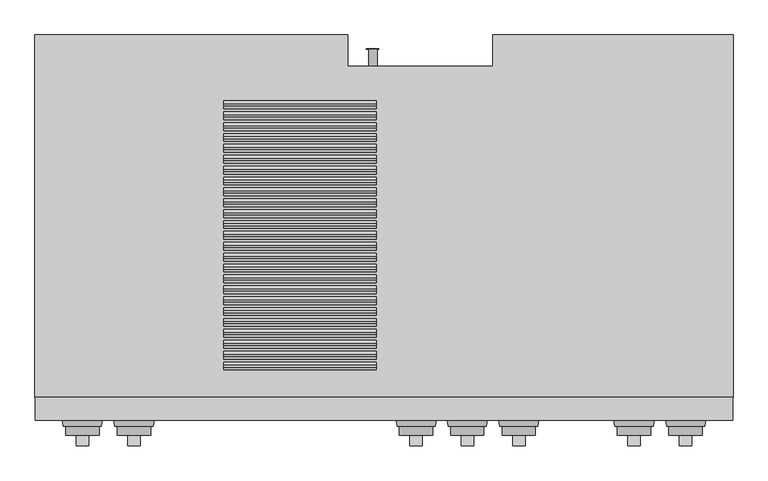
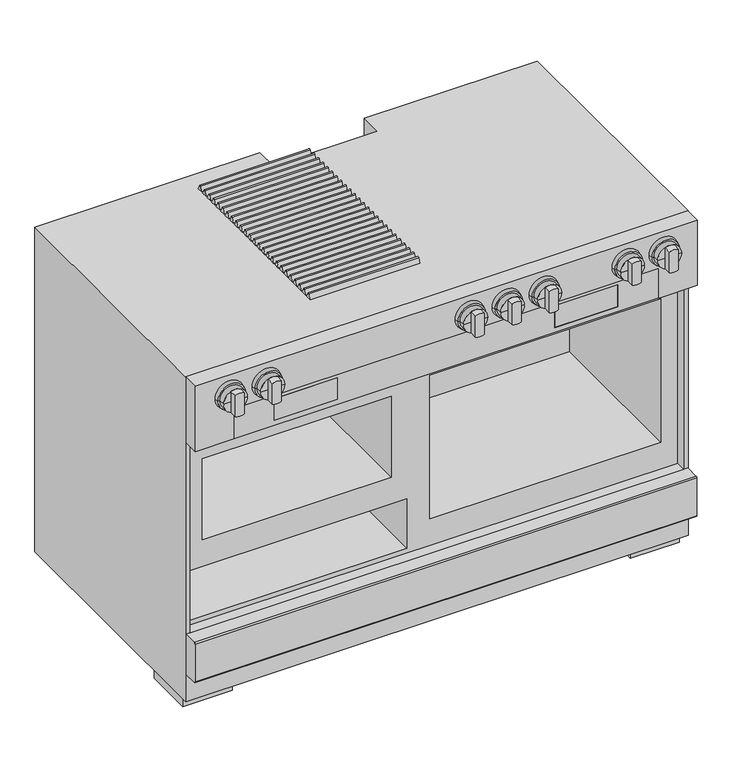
"""IFC4 building model written with IfcOpenShell, lengths in millimetres: proxy geometry, 11791690_USA_HR1955-3G_EDST-CLST : 25195581_USA_11791690_HR1955-3G_EDST-CLST."""

from ifc_helpers import new_model, si_unit, point, frame, frame_2d, origin, origin_with_axes, place, context, project, spatial, polyline, circle_curve, trimmed, segment, composite_curve, outline, extrude, faceted_brep, source, transform, mapped, element, save
from ifc_brep_helpers import plane_surface, cylinder_surface, revolved_surface, advanced_brep


def specialty_equipment_22e6063f(model_context):
    return source(origin(), model_context, "Body", "SolidModel", [
        extrude(outline(composite_curve([segment(polyline([(-584.850382, 916.0), (-579.8405353, 927.7825791)]), True, "CONTINUOUS"), segment(trimmed(circle_curve(frame_2d((-578.0, 927.0)), 2.0), [point((-579.8405353, 927.7825791))], [point((-576.1594647, 927.7825791))], False, "CARTESIAN"), True, "CONTINUOUS"), segment(polyline([(-576.1594647, 927.7825791), (-571.149618, 916.0), (-584.850382, 916.0)]), True, "CONTINUOUS")], self_intersect=False)), frame((-279.5, 0.0, 0.0), z_axis=(1.0, 0.0, 0.0), x_axis=(0.0, 1.0, 0.0)), (0.0, 0.0, 1.0), 266.0),
        extrude(outline(composite_curve([segment(polyline([(-565.850382, 916.0), (-560.8405353, 927.7825791)]), True, "CONTINUOUS"), segment(trimmed(circle_curve(frame_2d((-559.0, 927.0)), 2.0), [point((-560.8405353, 927.7825791))], [point((-557.1594647, 927.7825791))], False, "CARTESIAN"), True, "CONTINUOUS"), segment(polyline([(-557.1594647, 927.7825791), (-552.149618, 916.0), (-565.850382, 916.0)]), True, "CONTINUOUS")], self_intersect=False)), frame((-279.5, 0.0, 0.0), z_axis=(1.0, 0.0, 0.0), x_axis=(0.0, 1.0, 0.0)), (0.0, 0.0, 1.0), 266.0),
        extrude(outline(composite_curve([segment(polyline([(-546.850382, 916.0), (-541.8405353, 927.7825791)]), True, "CONTINUOUS"), segment(trimmed(circle_curve(frame_2d((-540.0, 927.0)), 2.0), [point((-541.8405353, 927.7825791))], [point((-538.1594647, 927.7825791))], False, "CARTESIAN"), True, "CONTINUOUS"), segment(polyline([(-538.1594647, 927.7825791), (-533.149618, 916.0), (-546.850382, 916.0)]), True, "CONTINUOUS")], self_intersect=False)), frame((-279.5, 0.0, 0.0), z_axis=(1.0, 0.0, 0.0), x_axis=(0.0, 1.0, 0.0)), (0.0, 0.0, 1.0), 266.0),
        extrude(outline(composite_curve([segment(polyline([(-527.850382, 916.0), (-522.8405353, 927.7825791)]), True, "CONTINUOUS"), segment(trimmed(circle_curve(frame_2d((-521.0, 927.0)), 2.0), [point((-522.8405353, 927.7825791))], [point((-519.1594647, 927.7825791))], False, "CARTESIAN"), True, "CONTINUOUS"), segment(polyline([(-519.1594647, 927.7825791), (-514.149618, 916.0), (-527.850382, 916.0)]), True, "CONTINUOUS")], self_intersect=False)), frame((-279.5, 0.0, 0.0), z_axis=(1.0, 0.0, 0.0), x_axis=(0.0, 1.0, 0.0)), (0.0, 0.0, 1.0), 266.0),
        extrude(outline(composite_curve([segment(polyline([(-508.850382, 916.0), (-503.8405353, 927.7825791)]), True, "CONTINUOUS"), segment(trimmed(circle_curve(frame_2d((-502.0, 927.0)), 2.0), [point((-503.8405353, 927.7825791))], [point((-500.1594647, 927.7825791))], False, "CARTESIAN"), True, "CONTINUOUS"), segment(polyline([(-500.1594647, 927.7825791), (-495.149618, 916.0), (-508.850382, 916.0)]), True, "CONTINUOUS")], self_intersect=False)), frame((-279.5, 0.0, 0.0), z_axis=(1.0, 0.0, 0.0), x_axis=(0.0, 1.0, 0.0)), (0.0, 0.0, 1.0), 266.0),
        extrude(outline(composite_curve([segment(polyline([(-489.850382, 916.0), (-484.8405353, 927.7825791)]), True, "CONTINUOUS"), segment(trimmed(circle_curve(frame_2d((-483.0, 927.0)), 2.0), [point((-484.8405353, 927.7825791))], [point((-481.1594647, 927.7825791))], False, "CARTESIAN"), True, "CONTINUOUS"), segment(polyline([(-481.1594647, 927.7825791), (-476.149618, 916.0), (-489.850382, 916.0)]), True, "CONTINUOUS")], self_intersect=False)), frame((-279.5, 0.0, 0.0), z_axis=(1.0, 0.0, 0.0), x_axis=(0.0, 1.0, 0.0)), (0.0, 0.0, 1.0), 266.0),
        extrude(outline(composite_curve([segment(polyline([(-470.850382, 916.0), (-465.8405353, 927.7825791)]), True, "CONTINUOUS"), segment(trimmed(circle_curve(frame_2d((-464.0, 927.0)), 2.0), [point((-465.8405353, 927.7825791))], [point((-462.1594647, 927.7825791))], False, "CARTESIAN"), True, "CONTINUOUS"), segment(polyline([(-462.1594647, 927.7825791), (-457.149618, 916.0), (-470.850382, 916.0)]), True, "CONTINUOUS")], self_intersect=False)), frame((-279.5, 0.0, 0.0), z_axis=(1.0, 0.0, 0.0), x_axis=(0.0, 1.0, 0.0)), (0.0, 0.0, 1.0), 266.0),
        extrude(outline(composite_curve([segment(polyline([(-451.850382, 916.0), (-446.8405353, 927.7825791)]), True, "CONTINUOUS"), segment(trimmed(circle_curve(frame_2d((-445.0, 927.0)), 2.0), [point((-446.8405353, 927.7825791))], [point((-443.1594647, 927.7825791))], False, "CARTESIAN"), True, "CONTINUOUS"), segment(polyline([(-443.1594647, 927.7825791), (-438.149618, 916.0), (-451.850382, 916.0)]), True, "CONTINUOUS")], self_intersect=False)), frame((-279.5, 0.0, 0.0), z_axis=(1.0, 0.0, 0.0), x_axis=(0.0, 1.0, 0.0)), (0.0, 0.0, 1.0), 266.0),
        extrude(outline(composite_curve([segment(polyline([(-432.850382, 916.0), (-427.8405353, 927.7825791)]), True, "CONTINUOUS"), segment(trimmed(circle_curve(frame_2d((-426.0, 927.0)), 2.0), [point((-427.8405353, 927.7825791))], [point((-424.1594647, 927.7825791))], False, "CARTESIAN"), True, "CONTINUOUS"), segment(polyline([(-424.1594647, 927.7825791), (-419.149618, 916.0), (-432.850382, 916.0)]), True, "CONTINUOUS")], self_intersect=False)), frame((-279.5, 0.0, 0.0), z_axis=(1.0, 0.0, 0.0), x_axis=(0.0, 1.0, 0.0)), (0.0, 0.0, 1.0), 266.0),
        extrude(outline(composite_curve([segment(polyline([(-413.850382, 916.0), (-408.8405353, 927.7825791)]), True, "CONTINUOUS"), segment(trimmed(circle_curve(frame_2d((-407.0, 927.0)), 2.0), [point((-408.8405353, 927.7825791))], [point((-405.1594647, 927.7825791))], False, "CARTESIAN"), True, "CONTINUOUS"), segment(polyline([(-405.1594647, 927.7825791), (-400.149618, 916.0), (-413.850382, 916.0)]), True, "CONTINUOUS")], self_intersect=False)), frame((-279.5, 0.0, 0.0), z_axis=(1.0, 0.0, 0.0), x_axis=(0.0, 1.0, 0.0)), (0.0, 0.0, 1.0), 266.0),
        extrude(outline(composite_curve([segment(polyline([(-394.850382, 916.0), (-389.8405353, 927.7825791)]), True, "CONTINUOUS"), segment(trimmed(circle_curve(frame_2d((-388.0, 927.0)), 2.0), [point((-389.8405353, 927.7825791))], [point((-386.1594647, 927.7825791))], False, "CARTESIAN"), True, "CONTINUOUS"), segment(polyline([(-386.1594647, 927.7825791), (-381.149618, 916.0), (-394.850382, 916.0)]), True, "CONTINUOUS")], self_intersect=False)), frame((-279.5, 0.0, 0.0), z_axis=(1.0, 0.0, 0.0), x_axis=(0.0, 1.0, 0.0)), (0.0, 0.0, 1.0), 266.0),
        extrude(outline(composite_curve([segment(polyline([(-375.850382, 916.0), (-370.8405353, 927.7825791)]), True, "CONTINUOUS"), segment(trimmed(circle_curve(frame_2d((-369.0, 927.0)), 2.0), [point((-370.8405353, 927.7825791))], [point((-367.1594647, 927.7825791))], False, "CARTESIAN"), True, "CONTINUOUS"), segment(polyline([(-367.1594647, 927.7825791), (-362.149618, 916.0), (-375.850382, 916.0)]), True, "CONTINUOUS")], self_intersect=False)), frame((-279.5, 0.0, 0.0), z_axis=(1.0, 0.0, 0.0), x_axis=(0.0, 1.0, 0.0)), (0.0, 0.0, 1.0), 266.0),
        extrude(outline(composite_curve([segment(polyline([(-356.850382, 916.0), (-351.8405353, 927.7825791)]), True, "CONTINUOUS"), segment(trimmed(circle_curve(frame_2d((-350.0, 927.0)), 2.0), [point((-351.8405353, 927.7825791))], [point((-348.1594647, 927.7825791))], False, "CARTESIAN"), True, "CONTINUOUS"), segment(polyline([(-348.1594647, 927.7825791), (-343.149618, 916.0), (-356.850382, 916.0)]), True, "CONTINUOUS")], self_intersect=False)), frame((-279.5, 0.0, 0.0), z_axis=(1.0, 0.0, 0.0), x_axis=(0.0, 1.0, 0.0)), (0.0, 0.0, 1.0), 266.0),
        extrude(outline(composite_curve([segment(polyline([(-337.850382, 916.0), (-332.8405353, 927.7825791)]), True, "CONTINUOUS"), segment(trimmed(circle_curve(frame_2d((-331.0, 927.0)), 2.0), [point((-332.8405353, 927.7825791))], [point((-329.1594647, 927.7825791))], False, "CARTESIAN"), True, "CONTINUOUS"), segment(polyline([(-329.1594647, 927.7825791), (-324.149618, 916.0), (-337.850382, 916.0)]), True, "CONTINUOUS")], self_intersect=False)), frame((-279.5, 0.0, 0.0), z_axis=(1.0, 0.0, 0.0), x_axis=(0.0, 1.0, 0.0)), (0.0, 0.0, 1.0), 266.0),
        extrude(outline(composite_curve([segment(polyline([(-318.850382, 916.0), (-313.8405353, 927.7825791)]), True, "CONTINUOUS"), segment(trimmed(circle_curve(frame_2d((-312.0, 927.0)), 2.0), [point((-313.8405353, 927.7825791))], [point((-310.1594647, 927.7825791))], False, "CARTESIAN"), True, "CONTINUOUS"), segment(polyline([(-310.1594647, 927.7825791), (-305.149618, 916.0), (-318.850382, 916.0)]), True, "CONTINUOUS")], self_intersect=False)), frame((-279.5, 0.0, 0.0), z_axis=(1.0, 0.0, 0.0), x_axis=(0.0, 1.0, 0.0)), (0.0, 0.0, 1.0), 266.0),
        extrude(outline(composite_curve([segment(polyline([(-299.850382, 916.0), (-294.8405353, 927.7825791)]), True, "CONTINUOUS"), segment(trimmed(circle_curve(frame_2d((-293.0, 927.0)), 2.0), [point((-294.8405353, 927.7825791))], [point((-291.1594647, 927.7825791))], False, "CARTESIAN"), True, "CONTINUOUS"), segment(polyline([(-291.1594647, 927.7825791), (-286.149618, 916.0), (-299.850382, 916.0)]), True, "CONTINUOUS")], self_intersect=False)), frame((-279.5, 0.0, 0.0), z_axis=(1.0, 0.0, 0.0), x_axis=(0.0, 1.0, 0.0)), (0.0, 0.0, 1.0), 266.0),
        extrude(outline(composite_curve([segment(polyline([(-280.850382, 916.0), (-275.8405353, 927.7825791)]), True, "CONTINUOUS"), segment(trimmed(circle_curve(frame_2d((-274.0, 927.0)), 2.0), [point((-275.8405353, 927.7825791))], [point((-272.1594647, 927.7825791))], False, "CARTESIAN"), True, "CONTINUOUS"), segment(polyline([(-272.1594647, 927.7825791), (-267.149618, 916.0), (-280.850382, 916.0)]), True, "CONTINUOUS")], self_intersect=False)), frame((-279.5, 0.0, 0.0), z_axis=(1.0, 0.0, 0.0), x_axis=(0.0, 1.0, 0.0)), (0.0, 0.0, 1.0), 266.0),
        extrude(outline(composite_curve([segment(polyline([(-261.850382, 916.0), (-256.8405353, 927.7825791)]), True, "CONTINUOUS"), segment(trimmed(circle_curve(frame_2d((-255.0, 927.0)), 2.0), [point((-256.8405353, 927.7825791))], [point((-253.1594647, 927.7825791))], False, "CARTESIAN"), True, "CONTINUOUS"), segment(polyline([(-253.1594647, 927.7825791), (-248.149618, 916.0), (-261.850382, 916.0)]), True, "CONTINUOUS")], self_intersect=False)), frame((-279.5, 0.0, 0.0), z_axis=(1.0, 0.0, 0.0), x_axis=(0.0, 1.0, 0.0)), (0.0, 0.0, 1.0), 266.0),
        extrude(outline(composite_curve([segment(polyline([(-242.850382, 916.0), (-237.8405353, 927.7825791)]), True, "CONTINUOUS"), segment(trimmed(circle_curve(frame_2d((-236.0, 927.0)), 2.0), [point((-237.8405353, 927.7825791))], [point((-234.1594647, 927.7825791))], False, "CARTESIAN"), True, "CONTINUOUS"), segment(polyline([(-234.1594647, 927.7825791), (-229.149618, 916.0), (-242.850382, 916.0)]), True, "CONTINUOUS")], self_intersect=False)), frame((-279.5, 0.0, 0.0), z_axis=(1.0, 0.0, 0.0), x_axis=(0.0, 1.0, 0.0)), (0.0, 0.0, 1.0), 266.0),
        extrude(outline(composite_curve([segment(polyline([(-223.850382, 916.0), (-218.8405353, 927.7825791)]), True, "CONTINUOUS"), segment(trimmed(circle_curve(frame_2d((-217.0, 927.0)), 2.0), [point((-218.8405353, 927.7825791))], [point((-215.1594647, 927.7825791))], False, "CARTESIAN"), True, "CONTINUOUS"), segment(polyline([(-215.1594647, 927.7825791), (-210.149618, 916.0), (-223.850382, 916.0)]), True, "CONTINUOUS")], self_intersect=False)), frame((-279.5, 0.0, 0.0), z_axis=(1.0, 0.0, 0.0), x_axis=(0.0, 1.0, 0.0)), (0.0, 0.0, 1.0), 266.0),
        extrude(outline(composite_curve([segment(polyline([(-204.850382, 916.0), (-199.8405353, 927.7825791)]), True, "CONTINUOUS"), segment(trimmed(circle_curve(frame_2d((-198.0, 927.0)), 2.0), [point((-199.8405353, 927.7825791))], [point((-196.1594647, 927.7825791))], False, "CARTESIAN"), True, "CONTINUOUS"), segment(polyline([(-196.1594647, 927.7825791), (-191.149618, 916.0), (-204.850382, 916.0)]), True, "CONTINUOUS")], self_intersect=False)), frame((-279.5, 0.0, 0.0), z_axis=(1.0, 0.0, 0.0), x_axis=(0.0, 1.0, 0.0)), (0.0, 0.0, 1.0), 266.0),
        extrude(outline(composite_curve([segment(polyline([(-186.0094205, 916.0), (-180.9995737, 927.7825791)]), True, "CONTINUOUS"), segment(trimmed(circle_curve(frame_2d((-179.1590385, 927.0)), 2.0), [point((-180.9995737, 927.7825791))], [point((-177.3185032, 927.7825791))], False, "CARTESIAN"), True, "CONTINUOUS"), segment(polyline([(-177.3185032, 927.7825791), (-172.3086564, 916.0), (-186.0094205, 916.0)]), True, "CONTINUOUS")], self_intersect=False)), frame((-279.5, 0.0, 0.0), z_axis=(1.0, 0.0, 0.0), x_axis=(0.0, 1.0, 0.0)), (0.0, 0.0, 1.0), 266.0),
        extrude(outline(composite_curve([segment(polyline([(-167.0094205, 916.0), (-161.9995737, 927.7825791)]), True, "CONTINUOUS"), segment(trimmed(circle_curve(frame_2d((-160.1590385, 927.0)), 2.0), [point((-161.9995737, 927.7825791))], [point((-158.3185032, 927.7825791))], False, "CARTESIAN"), True, "CONTINUOUS"), segment(polyline([(-158.3185032, 927.7825791), (-153.3086564, 916.0), (-167.0094205, 916.0)]), True, "CONTINUOUS")], self_intersect=False)), frame((-279.5, 0.0, 0.0), z_axis=(1.0, 0.0, 0.0), x_axis=(0.0, 1.0, 0.0)), (0.0, 0.0, 1.0), 266.0),
        extrude(outline(composite_curve([segment(polyline([(-147.9510319, 916.0), (-142.9411852, 927.7825791)]), True, "CONTINUOUS"), segment(trimmed(circle_curve(frame_2d((-141.1006499, 927.0)), 2.0), [point((-142.9411852, 927.7825791))], [point((-139.2601147, 927.7825791))], False, "CARTESIAN"), True, "CONTINUOUS"), segment(polyline([(-139.2601147, 927.7825791), (-134.2502679, 916.0), (-147.9510319, 916.0)]), True, "CONTINUOUS")], self_intersect=False)), frame((-279.5, 0.0, 0.0), z_axis=(1.0, 0.0, 0.0), x_axis=(0.0, 1.0, 0.0)), (0.0, 0.0, 1.0), 266.0),
        extrude(outline(composite_curve([segment(polyline([(-128.9510319, 916.0), (-123.9411852, 927.7825791)]), True, "CONTINUOUS"), segment(trimmed(circle_curve(frame_2d((-122.1006499, 927.0)), 2.0), [point((-123.9411852, 927.7825791))], [point((-120.2601147, 927.7825791))], False, "CARTESIAN"), True, "CONTINUOUS"), segment(polyline([(-120.2601147, 927.7825791), (-115.2502679, 916.0), (-128.9510319, 916.0)]), True, "CONTINUOUS")], self_intersect=False)), frame((-279.5, 0.0, 0.0), z_axis=(1.0, 0.0, 0.0), x_axis=(0.0, 1.0, 0.0)), (0.0, 0.0, 1.0), 266.0),
        advanced_brep(
        [(526.5, -683.0, 813.0), (555.5, -683.0, 813.0), (497.5, -683.0, 813.0), (497.5, -699.0, 813.0), (555.5, -699.0, 813.0), (526.5, -699.0, 813.0)],
        [
            (0, 1),
            (1, 2, circle_curve(frame((526.5, -683.0, 813.0), z_axis=(0.0, 1.0, 0.0), x_axis=(1.0, 0.0, 0.0)), 29.0)),
            (2, 0),
            (2, 1, circle_curve(frame((526.5, -683.0, 813.0), z_axis=(0.0, 1.0, 0.0), x_axis=(1.0, 0.0, 0.0)), 29.0)),
            (3, 4, circle_curve(frame((526.5, -699.0, 813.0), z_axis=(0.0, -1.0, 0.0), x_axis=(1.0, 0.0, 0.0)), 29.0)),
            (4, 5),
            (5, 3),
            (4, 3, circle_curve(frame((526.5, -699.0, 813.0), z_axis=(0.0, -1.0, 0.0), x_axis=(1.0, 0.0, 0.0)), 29.0)),
            (1, 4),
            (3, 2),
        ],
        [
            plane_surface(frame((526.5, -683.0, 813.0), z_axis=(0.0, 1.0, 0.0), x_axis=(1.0, 0.0, 0.0))),
            plane_surface(frame((526.5, -699.0, 813.0), z_axis=(0.0, -1.0, 0.0), x_axis=(1.0, 0.0, 0.0))),
            cylinder_surface(frame((526.5, 751.3738435, 813.0), z_axis=(0.0, 1.0, 0.0), x_axis=(1.0, 0.0, 0.0)), 29.0),
        ],
        [
            (0, [[1, 2, 3]]),
            (0, [[-3, 4, -1]]),
            (1, [[5, 6, 7]]),
            (1, [[8, -7, -6]]),
            (2, [[-2, 9, -5, 10]]),
            (2, [[-4, -10, -8, -9]]),
        ],
    ),
        extrude(outline(composite_curve([segment(polyline([(786.1671843, 537.5), (839.8328157, 537.5)]), True, "CONTINUOUS"), segment(trimmed(circle_curve(frame_2d((813.0, 526.5)), 29.0), [point((839.8328157, 537.5))], [point((839.8328157, 515.5))], False, "CARTESIAN"), True, "CONTINUOUS"), segment(polyline([(839.8328157, 515.5), (786.1671843, 515.5)]), True, "CONTINUOUS"), segment(trimmed(circle_curve(frame_2d((813.0, 526.5)), 29.0), [point((786.1671843, 515.5))], [point((786.1671843, 537.5))], False, "CARTESIAN"), True, "CONTINUOUS")], self_intersect=False)), frame((0.0, -717.0, 0.0), z_axis=(0.0, 1.0, 0.0), x_axis=(0.0, 0.0, 1.0)), (0.0, 0.0, 1.0), 18.0),
        advanced_brep(
        [(436.5, -683.0, 813.0), (465.5, -683.0, 813.0), (407.5, -683.0, 813.0), (407.5, -699.0, 813.0), (465.5, -699.0, 813.0), (436.5, -699.0, 813.0)],
        [
            (0, 1),
            (1, 2, circle_curve(frame((436.5, -683.0, 813.0), z_axis=(0.0, 1.0, 0.0), x_axis=(1.0, 0.0, 0.0)), 29.0)),
            (2, 0),
            (2, 1, circle_curve(frame((436.5, -683.0, 813.0), z_axis=(0.0, 1.0, 0.0), x_axis=(1.0, 0.0, 0.0)), 29.0)),
            (3, 4, circle_curve(frame((436.5, -699.0, 813.0), z_axis=(0.0, -1.0, 0.0), x_axis=(1.0, 0.0, 0.0)), 29.0)),
            (4, 5),
            (5, 3),
            (4, 3, circle_curve(frame((436.5, -699.0, 813.0), z_axis=(0.0, -1.0, 0.0), x_axis=(1.0, 0.0, 0.0)), 29.0)),
            (1, 4),
            (3, 2),
        ],
        [
            plane_surface(frame((436.5, -683.0, 813.0), z_axis=(0.0, 1.0, 0.0), x_axis=(1.0, 0.0, 0.0))),
            plane_surface(frame((436.5, -699.0, 813.0), z_axis=(0.0, -1.0, 0.0), x_axis=(1.0, 0.0, 0.0))),
            cylinder_surface(frame((436.5, 751.3738435, 813.0), z_axis=(0.0, 1.0, 0.0), x_axis=(1.0, 0.0, 0.0)), 29.0),
        ],
        [
            (0, [[1, 2, 3]]),
            (0, [[-3, 4, -1]]),
            (1, [[5, 6, 7]]),
            (1, [[8, -7, -6]]),
            (2, [[-2, 9, -5, 10]]),
            (2, [[-4, -10, -8, -9]]),
        ],
    ),
        advanced_brep(
        [(235.5, -683.0, 813.0), (264.5, -683.0, 813.0), (206.5, -683.0, 813.0), (206.5, -699.0, 813.0), (264.5, -699.0, 813.0), (235.5, -699.0, 813.0)],
        [
            (0, 1),
            (1, 2, circle_curve(frame((235.5, -683.0, 813.0), z_axis=(0.0, 1.0, 0.0), x_axis=(1.0, 0.0, 0.0)), 29.0)),
            (2, 0),
            (2, 1, circle_curve(frame((235.5, -683.0, 813.0), z_axis=(0.0, 1.0, 0.0), x_axis=(1.0, 0.0, 0.0)), 29.0)),
            (3, 4, circle_curve(frame((235.5, -699.0, 813.0), z_axis=(0.0, -1.0, 0.0), x_axis=(1.0, 0.0, 0.0)), 29.0)),
            (4, 5),
            (5, 3),
            (4, 3, circle_curve(frame((235.5, -699.0, 813.0), z_axis=(0.0, -1.0, 0.0), x_axis=(1.0, 0.0, 0.0)), 29.0)),
            (1, 4),
            (3, 2),
        ],
        [
            plane_surface(frame((235.5, -683.0, 813.0), z_axis=(0.0, 1.0, 0.0), x_axis=(1.0, 0.0, 0.0))),
            plane_surface(frame((235.5, -699.0, 813.0), z_axis=(0.0, -1.0, 0.0), x_axis=(1.0, 0.0, 0.0))),
            cylinder_surface(frame((235.5, 751.3738435, 813.0), z_axis=(0.0, 1.0, 0.0), x_axis=(1.0, 0.0, 0.0)), 29.0),
        ],
        [
            (0, [[1, 2, 3]]),
            (0, [[-3, 4, -1]]),
            (1, [[5, 6, 7]]),
            (1, [[8, -7, -6]]),
            (2, [[-2, 9, -5, 10]]),
            (2, [[-4, -10, -8, -9]]),
        ],
    ),
        advanced_brep(
        [(-436.5, -683.0, 813.0), (-407.5, -683.0, 813.0), (-465.5, -683.0, 813.0), (-465.5, -699.0, 813.0), (-407.5, -699.0, 813.0), (-436.5, -699.0, 813.0)],
        [
            (0, 1),
            (1, 2, circle_curve(frame((-436.5, -683.0, 813.0), z_axis=(0.0, 1.0, 0.0), x_axis=(1.0, 0.0, 0.0)), 29.0)),
            (2, 0),
            (2, 1, circle_curve(frame((-436.5, -683.0, 813.0), z_axis=(0.0, 1.0, 0.0), x_axis=(1.0, 0.0, 0.0)), 29.0)),
            (3, 4, circle_curve(frame((-436.5, -699.0, 813.0), z_axis=(0.0, -1.0, 0.0), x_axis=(1.0, 0.0, 0.0)), 29.0)),
            (4, 5),
            (5, 3),
            (4, 3, circle_curve(frame((-436.5, -699.0, 813.0), z_axis=(0.0, -1.0, 0.0), x_axis=(1.0, 0.0, 0.0)), 29.0)),
            (1, 4),
            (3, 2),
        ],
        [
            plane_surface(frame((-436.5, -683.0, 813.0), z_axis=(0.0, 1.0, 0.0), x_axis=(1.0, 0.0, 0.0))),
            plane_surface(frame((-436.5, -699.0, 813.0), z_axis=(0.0, -1.0, 0.0), x_axis=(1.0, 0.0, 0.0))),
            cylinder_surface(frame((-436.5, 751.3738435, 813.0), z_axis=(0.0, 1.0, 0.0), x_axis=(1.0, 0.0, 0.0)), 29.0),
        ],
        [
            (0, [[1, 2, 3]]),
            (0, [[-3, 4, -1]]),
            (1, [[5, 6, 7]]),
            (1, [[8, -7, -6]]),
            (2, [[-2, 9, -5, 10]]),
            (2, [[-4, -10, -8, -9]]),
        ],
    ),
        advanced_brep(
        [(-526.5, -683.0, 813.0), (-497.5, -683.0, 813.0), (-555.5, -683.0, 813.0), (-555.5, -699.0, 813.0), (-497.5, -699.0, 813.0), (-526.5, -699.0, 813.0)],
        [
            (0, 1),
            (1, 2, circle_curve(frame((-526.5, -683.0, 813.0), z_axis=(0.0, 1.0, 0.0), x_axis=(1.0, 0.0, 0.0)), 29.0)),
            (2, 0),
            (2, 1, circle_curve(frame((-526.5, -683.0, 813.0), z_axis=(0.0, 1.0, 0.0), x_axis=(1.0, 0.0, 0.0)), 29.0)),
            (3, 4, circle_curve(frame((-526.5, -699.0, 813.0), z_axis=(0.0, -1.0, 0.0), x_axis=(1.0, 0.0, 0.0)), 29.0)),
            (4, 5),
            (5, 3),
            (4, 3, circle_curve(frame((-526.5, -699.0, 813.0), z_axis=(0.0, -1.0, 0.0), x_axis=(1.0, 0.0, 0.0)), 29.0)),
            (1, 4),
            (3, 2),
        ],
        [
            plane_surface(frame((-526.5, -683.0, 813.0), z_axis=(0.0, 1.0, 0.0), x_axis=(1.0, 0.0, 0.0))),
            plane_surface(frame((-526.5, -699.0, 813.0), z_axis=(0.0, -1.0, 0.0), x_axis=(1.0, 0.0, 0.0))),
            cylinder_surface(frame((-526.5, 751.3738435, 813.0), z_axis=(0.0, 1.0, 0.0), x_axis=(1.0, 0.0, 0.0)), 29.0),
        ],
        [
            (0, [[1, 2, 3]]),
            (0, [[-3, 4, -1]]),
            (1, [[5, 6, 7]]),
            (1, [[8, -7, -6]]),
            (2, [[-2, 9, -5, 10]]),
            (2, [[-4, -10, -8, -9]]),
        ],
    ),
        extrude(outline(composite_curve([segment(trimmed(circle_curve(frame_2d((813.0, 436.5)), 29.0), [point((786.1671843, 425.5))], [point((786.1671843, 447.5))], False, "CARTESIAN"), True, "CONTINUOUS"), segment(polyline([(786.1671843, 447.5), (839.8328157, 447.5)]), True, "CONTINUOUS"), segment(trimmed(circle_curve(frame_2d((813.0, 436.5)), 29.0), [point((839.8328157, 447.5))], [point((839.8328157, 425.5))], False, "CARTESIAN"), True, "CONTINUOUS"), segment(polyline([(839.8328157, 425.5), (786.1671843, 425.5)]), True, "CONTINUOUS")], self_intersect=False)), frame((0.0, -717.0, 0.0), z_axis=(0.0, 1.0, 0.0), x_axis=(0.0, 0.0, 1.0)), (0.0, 0.0, 1.0), 18.0),
        extrude(outline(composite_curve([segment(polyline([(839.8328157, 224.5), (786.1671843, 224.5)]), True, "CONTINUOUS"), segment(trimmed(circle_curve(frame_2d((813.0, 235.5)), 29.0), [point((786.1671843, 224.5))], [point((786.1671843, 246.5))], False, "CARTESIAN"), True, "CONTINUOUS"), segment(polyline([(786.1671843, 246.5), (839.8328157, 246.5)]), True, "CONTINUOUS"), segment(trimmed(circle_curve(frame_2d((813.0, 235.5)), 29.0), [point((839.8328157, 246.5))], [point((839.8328157, 224.5))], False, "CARTESIAN"), True, "CONTINUOUS")], self_intersect=False)), frame((0.0, -717.0, 0.0), z_axis=(0.0, 1.0, 0.0), x_axis=(0.0, 0.0, 1.0)), (0.0, 0.0, 1.0), 18.0),
        extrude(outline(composite_curve([segment(polyline([(839.8328157, -447.5), (786.1671843, -447.5)]), True, "CONTINUOUS"), segment(trimmed(circle_curve(frame_2d((813.0, -436.5)), 29.0), [point((786.1671843, -447.5))], [point((786.1671843, -425.5))], False, "CARTESIAN"), True, "CONTINUOUS"), segment(polyline([(786.1671843, -425.5), (839.8328157, -425.5)]), True, "CONTINUOUS"), segment(trimmed(circle_curve(frame_2d((813.0, -436.5)), 29.0), [point((839.8328157, -425.5))], [point((839.8328157, -447.5))], False, "CARTESIAN"), True, "CONTINUOUS")], self_intersect=False)), frame((0.0, -717.0, 0.0), z_axis=(0.0, 1.0, 0.0), x_axis=(0.0, 0.0, 1.0)), (0.0, 0.0, 1.0), 18.0),
        extrude(outline(composite_curve([segment(polyline([(839.8328157, -537.5), (786.1671843, -537.5)]), True, "CONTINUOUS"), segment(trimmed(circle_curve(frame_2d((813.0, -526.5)), 29.0), [point((786.1671843, -537.5))], [point((786.1671843, -515.5))], False, "CARTESIAN"), True, "CONTINUOUS"), segment(polyline([(786.1671843, -515.5), (839.8328157, -515.5)]), True, "CONTINUOUS"), segment(trimmed(circle_curve(frame_2d((813.0, -526.5)), 29.0), [point((839.8328157, -515.5))], [point((839.8328157, -537.5))], False, "CARTESIAN"), True, "CONTINUOUS")], self_intersect=False)), frame((0.0, -717.0, 0.0), z_axis=(0.0, 1.0, 0.0), x_axis=(0.0, 0.0, 1.0)), (0.0, 0.0, 1.0), 18.0),
        advanced_brep(
        [(145.5, -683.0, 813.0), (174.5, -683.0, 813.0), (116.5, -683.0, 813.0), (116.5, -699.0, 813.0), (174.5, -699.0, 813.0), (145.5, -699.0, 813.0)],
        [
            (0, 1),
            (1, 2, circle_curve(frame((145.5, -683.0, 813.0), z_axis=(0.0, 1.0, 0.0), x_axis=(1.0, 0.0, 0.0)), 29.0)),
            (2, 0),
            (2, 1, circle_curve(frame((145.5, -683.0, 813.0), z_axis=(0.0, 1.0, 0.0), x_axis=(1.0, 0.0, 0.0)), 29.0)),
            (3, 4, circle_curve(frame((145.5, -699.0, 813.0), z_axis=(0.0, -1.0, 0.0), x_axis=(1.0, 0.0, 0.0)), 29.0)),
            (4, 5),
            (5, 3),
            (4, 3, circle_curve(frame((145.5, -699.0, 813.0), z_axis=(0.0, -1.0, 0.0), x_axis=(1.0, 0.0, 0.0)), 29.0)),
            (1, 4),
            (3, 2),
        ],
        [
            plane_surface(frame((145.5, -683.0, 813.0), z_axis=(0.0, 1.0, 0.0), x_axis=(1.0, 0.0, 0.0))),
            plane_surface(frame((145.5, -699.0, 813.0), z_axis=(0.0, -1.0, 0.0), x_axis=(1.0, 0.0, 0.0))),
            cylinder_surface(frame((145.5, 751.3738435, 813.0), z_axis=(0.0, 1.0, 0.0), x_axis=(1.0, 0.0, 0.0)), 29.0),
        ],
        [
            (0, [[1, 2, 3]]),
            (0, [[-3, 4, -1]]),
            (1, [[5, 6, 7]]),
            (1, [[8, -7, -6]]),
            (2, [[-2, 9, -5, 10]]),
            (2, [[-4, -10, -8, -9]]),
        ],
    ),
        advanced_brep(
        [(56.0, -683.0, 813.0), (85.0, -683.0, 813.0), (27.0, -683.0, 813.0), (27.0, -699.0, 813.0), (85.0, -699.0, 813.0), (56.0, -699.0, 813.0)],
        [
            (0, 1),
            (1, 2, circle_curve(frame((56.0, -683.0, 813.0), z_axis=(0.0, 1.0, 0.0), x_axis=(1.0, 0.0, 0.0)), 29.0)),
            (2, 0),
            (2, 1, circle_curve(frame((56.0, -683.0, 813.0), z_axis=(0.0, 1.0, 0.0), x_axis=(1.0, 0.0, 0.0)), 29.0)),
            (3, 4, circle_curve(frame((56.0, -699.0, 813.0), z_axis=(0.0, -1.0, 0.0), x_axis=(1.0, 0.0, 0.0)), 29.0)),
            (4, 5),
            (5, 3),
            (4, 3, circle_curve(frame((56.0, -699.0, 813.0), z_axis=(0.0, -1.0, 0.0), x_axis=(1.0, 0.0, 0.0)), 29.0)),
            (1, 4),
            (3, 2),
        ],
        [
            plane_surface(frame((56.0, -683.0, 813.0), z_axis=(0.0, 1.0, 0.0), x_axis=(1.0, 0.0, 0.0))),
            plane_surface(frame((56.0, -699.0, 813.0), z_axis=(0.0, -1.0, 0.0), x_axis=(1.0, 0.0, 0.0))),
            cylinder_surface(frame((56.0, 751.3738435, 813.0), z_axis=(0.0, 1.0, 0.0), x_axis=(1.0, 0.0, 0.0)), 29.0),
        ],
        [
            (0, [[1, 2, 3]]),
            (0, [[-3, 4, -1]]),
            (1, [[5, 6, 7]]),
            (1, [[8, -7, -6]]),
            (2, [[-2, 9, -5, 10]]),
            (2, [[-4, -10, -8, -9]]),
        ],
    ),
        extrude(outline(composite_curve([segment(polyline([(839.8328157, 45.0), (786.1671843, 45.0)]), True, "CONTINUOUS"), segment(trimmed(circle_curve(frame_2d((813.0, 56.0)), 29.0), [point((786.1671843, 45.0))], [point((786.1671843, 67.0))], False, "CARTESIAN"), True, "CONTINUOUS"), segment(polyline([(786.1671843, 67.0), (839.8328157, 67.0)]), True, "CONTINUOUS"), segment(trimmed(circle_curve(frame_2d((813.0, 56.0)), 29.0), [point((839.8328157, 67.0))], [point((839.8328157, 45.0))], False, "CARTESIAN"), True, "CONTINUOUS")], self_intersect=False)), frame((0.0, -717.0, 0.0), z_axis=(0.0, 1.0, 0.0), x_axis=(0.0, 0.0, 1.0)), (0.0, 0.0, 1.0), 18.0),
        extrude(outline(composite_curve([segment(polyline([(839.8328157, 134.5), (786.1671843, 134.5)]), True, "CONTINUOUS"), segment(trimmed(circle_curve(frame_2d((813.0, 145.5)), 29.0), [point((786.1671843, 134.5))], [point((786.1671843, 156.5))], False, "CARTESIAN"), True, "CONTINUOUS"), segment(polyline([(786.1671843, 156.5), (839.8328157, 156.5)]), True, "CONTINUOUS"), segment(trimmed(circle_curve(frame_2d((813.0, 145.5)), 29.0), [point((839.8328157, 156.5))], [point((839.8328157, 134.5))], False, "CARTESIAN"), True, "CONTINUOUS")], self_intersect=False)), frame((0.0, -717.0, 0.0), z_axis=(0.0, 1.0, 0.0), x_axis=(0.0, 0.0, 1.0)), (0.0, 0.0, 1.0), 18.0),
        advanced_brep(
        [(493.2632698, -683.0, 813.0), (559.7367302, -683.0, 813.0), (526.5, -683.0, 813.0), (491.5, -673.0, 813.0), (561.5, -673.0, 813.0), (526.5, -673.0, 813.0)],
        [
            (0, 1, circle_curve(frame((526.5, -683.0, 813.0), z_axis=(0.0, -1.0, 0.0), x_axis=(1.0, 0.0, 0.0)), 33.2367302)),
            (1, 2),
            (2, 0),
            (1, 0, circle_curve(frame((526.5, -683.0, 813.0), z_axis=(0.0, -1.0, 0.0), x_axis=(1.0, 0.0, 0.0)), 33.2367302)),
            (3, 4, circle_curve(frame((526.5, -673.0, 813.0), z_axis=(0.0, -1.0, 0.0), x_axis=(1.0, 0.0, 0.0)), 35.0)),
            (4, 1),
            (0, 3),
            (4, 3, circle_curve(frame((526.5, -673.0, 813.0), z_axis=(0.0, -1.0, 0.0), x_axis=(1.0, 0.0, 0.0)), 35.0)),
            (5, 4),
            (3, 5),
        ],
        [
            plane_surface(frame((526.5, -683.0, 813.0), z_axis=(0.0, -1.0, 0.0), x_axis=(1.0, 0.0, 0.0))),
            revolved_surface(polyline([(559.7367302, -683.0, 813.0), (561.5, -673.0, 813.0)]), (526.5, 751.3738435, 813.0), (0.0, 1.0, 0.0)),
            plane_surface(frame((526.5, -673.0, 813.0), z_axis=(0.0, 1.0, 0.0), x_axis=(1.0, 0.0, 0.0))),
        ],
        [
            (0, [[1, 2, 3]]),
            (0, [[4, -3, -2]]),
            (1, [[5, 6, -1, 7]]),
            (1, [[8, -7, -4, -6]]),
            (2, [[9, -5, 10]]),
            (2, [[-10, -8, -9]]),
        ],
    ),
        advanced_brep(
        [(403.2632698, -683.0, 813.0), (469.7367302, -683.0, 813.0), (436.5, -683.0, 813.0), (401.5, -673.0, 813.0), (471.5, -673.0, 813.0), (436.5, -673.0, 813.0)],
        [
            (0, 1, circle_curve(frame((436.5, -683.0, 813.0), z_axis=(0.0, -1.0, 0.0), x_axis=(1.0, 0.0, 0.0)), 33.2367302)),
            (1, 2),
            (2, 0),
            (1, 0, circle_curve(frame((436.5, -683.0, 813.0), z_axis=(0.0, -1.0, 0.0), x_axis=(1.0, 0.0, 0.0)), 33.2367302)),
            (3, 4, circle_curve(frame((436.5, -673.0, 813.0), z_axis=(0.0, -1.0, 0.0), x_axis=(1.0, 0.0, 0.0)), 35.0)),
            (4, 1),
            (0, 3),
            (4, 3, circle_curve(frame((436.5, -673.0, 813.0), z_axis=(0.0, -1.0, 0.0), x_axis=(1.0, 0.0, 0.0)), 35.0)),
            (5, 4),
            (3, 5),
        ],
        [
            plane_surface(frame((436.5, -683.0, 813.0), z_axis=(0.0, -1.0, 0.0), x_axis=(1.0, 0.0, 0.0))),
            revolved_surface(polyline([(469.7367302, -683.0, 813.0), (471.5, -673.0, 813.0)]), (436.5, 751.3738435, 813.0), (0.0, 1.0, 0.0)),
            plane_surface(frame((436.5, -673.0, 813.0), z_axis=(0.0, 1.0, 0.0), x_axis=(1.0, 0.0, 0.0))),
        ],
        [
            (0, [[1, 2, 3]]),
            (0, [[4, -3, -2]]),
            (1, [[5, 6, -1, 7]]),
            (1, [[8, -7, -4, -6]]),
            (2, [[9, -5, 10]]),
            (2, [[-10, -8, -9]]),
        ],
    ),
        advanced_brep(
        [(202.2632698, -683.0, 813.0), (268.7367302, -683.0, 813.0), (235.5, -683.0, 813.0), (200.5, -673.0, 813.0), (270.5, -673.0, 813.0), (235.5, -673.0, 813.0)],
        [
            (0, 1, circle_curve(frame((235.5, -683.0, 813.0), z_axis=(0.0, -1.0, 0.0), x_axis=(1.0, 0.0, 0.0)), 33.2367302)),
            (1, 2),
            (2, 0),
            (1, 0, circle_curve(frame((235.5, -683.0, 813.0), z_axis=(0.0, -1.0, 0.0), x_axis=(1.0, 0.0, 0.0)), 33.2367302)),
            (3, 4, circle_curve(frame((235.5, -673.0, 813.0), z_axis=(0.0, -1.0, 0.0), x_axis=(1.0, 0.0, 0.0)), 35.0)),
            (4, 1),
            (0, 3),
            (4, 3, circle_curve(frame((235.5, -673.0, 813.0), z_axis=(0.0, -1.0, 0.0), x_axis=(1.0, 0.0, 0.0)), 35.0)),
            (5, 4),
            (3, 5),
        ],
        [
            plane_surface(frame((235.5, -683.0, 813.0), z_axis=(0.0, -1.0, 0.0), x_axis=(1.0, 0.0, 0.0))),
            revolved_surface(polyline([(268.7367302, -683.0, 813.0), (270.5, -673.0, 813.0)]), (235.5, 751.3738435, 813.0), (0.0, 1.0, 0.0)),
            plane_surface(frame((235.5, -673.0, 813.0), z_axis=(0.0, 1.0, 0.0), x_axis=(1.0, 0.0, 0.0))),
        ],
        [
            (0, [[1, 2, 3]]),
            (0, [[4, -3, -2]]),
            (1, [[5, 6, -1, 7]]),
            (1, [[8, -7, -4, -6]]),
            (2, [[9, -5, 10]]),
            (2, [[-10, -8, -9]]),
        ],
    ),
        advanced_brep(
        [(-469.7367302, -683.0, 813.0), (-403.2632698, -683.0, 813.0), (-436.5, -683.0, 813.0), (-471.5, -673.0, 813.0), (-401.5, -673.0, 813.0), (-436.5, -673.0, 813.0)],
        [
            (0, 1, circle_curve(frame((-436.5, -683.0, 813.0), z_axis=(0.0, -1.0, 0.0), x_axis=(1.0, 0.0, 0.0)), 33.2367302)),
            (1, 2),
            (2, 0),
            (1, 0, circle_curve(frame((-436.5, -683.0, 813.0), z_axis=(0.0, -1.0, 0.0), x_axis=(1.0, 0.0, 0.0)), 33.2367302)),
            (3, 4, circle_curve(frame((-436.5, -673.0, 813.0), z_axis=(0.0, -1.0, 0.0), x_axis=(1.0, 0.0, 0.0)), 35.0)),
            (4, 1),
            (0, 3),
            (4, 3, circle_curve(frame((-436.5, -673.0, 813.0), z_axis=(0.0, -1.0, 0.0), x_axis=(1.0, 0.0, 0.0)), 35.0)),
            (5, 4),
            (3, 5),
        ],
        [
            plane_surface(frame((-436.5, -683.0, 813.0), z_axis=(0.0, -1.0, 0.0), x_axis=(1.0, 0.0, 0.0))),
            revolved_surface(polyline([(-403.2632698, -683.0, 813.0), (-401.5, -673.0, 813.0)]), (-436.5, 751.3738435, 813.0), (0.0, 1.0, 0.0)),
            plane_surface(frame((-436.5, -673.0, 813.0), z_axis=(0.0, 1.0, 0.0), x_axis=(1.0, 0.0, 0.0))),
        ],
        [
            (0, [[1, 2, 3]]),
            (0, [[4, -3, -2]]),
            (1, [[5, 6, -1, 7]]),
            (1, [[8, -7, -4, -6]]),
            (2, [[9, -5, 10]]),
            (2, [[-10, -8, -9]]),
        ],
    ),
        advanced_brep(
        [(-559.7367302, -683.0, 813.0), (-493.2632698, -683.0, 813.0), (-526.5, -683.0, 813.0), (-561.5, -673.0, 813.0), (-491.5, -673.0, 813.0), (-526.5, -673.0, 813.0)],
        [
            (0, 1, circle_curve(frame((-526.5, -683.0, 813.0), z_axis=(0.0, -1.0, 0.0), x_axis=(1.0, 0.0, 0.0)), 33.2367302)),
            (1, 2),
            (2, 0),
            (1, 0, circle_curve(frame((-526.5, -683.0, 813.0), z_axis=(0.0, -1.0, 0.0), x_axis=(1.0, 0.0, 0.0)), 33.2367302)),
            (3, 4, circle_curve(frame((-526.5, -673.0, 813.0), z_axis=(0.0, -1.0, 0.0), x_axis=(1.0, 0.0, 0.0)), 35.0)),
            (4, 1),
            (0, 3),
            (4, 3, circle_curve(frame((-526.5, -673.0, 813.0), z_axis=(0.0, -1.0, 0.0), x_axis=(1.0, 0.0, 0.0)), 35.0)),
            (5, 4),
            (3, 5),
        ],
        [
            plane_surface(frame((-526.5, -683.0, 813.0), z_axis=(0.0, -1.0, 0.0), x_axis=(1.0, 0.0, 0.0))),
            revolved_surface(polyline([(-493.2632698, -683.0, 813.0), (-491.5, -673.0, 813.0)]), (-526.5, 751.3738435, 813.0), (0.0, 1.0, 0.0)),
            plane_surface(frame((-526.5, -673.0, 813.0), z_axis=(0.0, 1.0, 0.0), x_axis=(1.0, 0.0, 0.0))),
        ],
        [
            (0, [[1, 2, 3]]),
            (0, [[4, -3, -2]]),
            (1, [[5, 6, -1, 7]]),
            (1, [[8, -7, -4, -6]]),
            (2, [[9, -5, 10]]),
            (2, [[-10, -8, -9]]),
        ],
    ),
        advanced_brep(
        [(112.2632698, -683.0, 813.0), (178.7367302, -683.0, 813.0), (145.5, -683.0, 813.0), (110.5, -673.0, 813.0), (180.5, -673.0, 813.0), (145.5, -673.0, 813.0)],
        [
            (0, 1, circle_curve(frame((145.5, -683.0, 813.0), z_axis=(0.0, -1.0, 0.0), x_axis=(1.0, 0.0, 0.0)), 33.2367302)),
            (1, 2),
            (2, 0),
            (1, 0, circle_curve(frame((145.5, -683.0, 813.0), z_axis=(0.0, -1.0, 0.0), x_axis=(1.0, 0.0, 0.0)), 33.2367302)),
            (3, 4, circle_curve(frame((145.5, -673.0, 813.0), z_axis=(0.0, -1.0, 0.0), x_axis=(1.0, 0.0, 0.0)), 35.0)),
            (4, 1),
            (0, 3),
            (4, 3, circle_curve(frame((145.5, -673.0, 813.0), z_axis=(0.0, -1.0, 0.0), x_axis=(1.0, 0.0, 0.0)), 35.0)),
            (5, 4),
            (3, 5),
        ],
        [
            plane_surface(frame((145.5, -683.0, 813.0), z_axis=(0.0, -1.0, 0.0), x_axis=(1.0, 0.0, 0.0))),
            revolved_surface(polyline([(178.7367302, -683.0, 813.0), (180.5, -673.0, 813.0)]), (145.5, 751.3738435, 813.0), (0.0, 1.0, 0.0)),
            plane_surface(frame((145.5, -673.0, 813.0), z_axis=(0.0, 1.0, 0.0), x_axis=(1.0, 0.0, 0.0))),
        ],
        [
            (0, [[1, 2, 3]]),
            (0, [[4, -3, -2]]),
            (1, [[5, 6, -1, 7]]),
            (1, [[8, -7, -4, -6]]),
            (2, [[9, -5, 10]]),
            (2, [[-10, -8, -9]]),
        ],
    ),
        advanced_brep(
        [(22.7632698, -683.0, 813.0), (89.2367302, -683.0, 813.0), (56.0, -683.0, 813.0), (21.0, -673.0, 813.0), (91.0, -673.0, 813.0), (56.0, -673.0, 813.0)],
        [
            (0, 1, circle_curve(frame((56.0, -683.0, 813.0), z_axis=(0.0, -1.0, 0.0), x_axis=(1.0, 0.0, 0.0)), 33.2367302)),
            (1, 2),
            (2, 0),
            (1, 0, circle_curve(frame((56.0, -683.0, 813.0), z_axis=(0.0, -1.0, 0.0), x_axis=(1.0, 0.0, 0.0)), 33.2367302)),
            (3, 4, circle_curve(frame((56.0, -673.0, 813.0), z_axis=(0.0, -1.0, 0.0), x_axis=(1.0, 0.0, 0.0)), 35.0)),
            (4, 1),
            (0, 3),
            (4, 3, circle_curve(frame((56.0, -673.0, 813.0), z_axis=(0.0, -1.0, 0.0), x_axis=(1.0, 0.0, 0.0)), 35.0)),
            (5, 4),
            (3, 5),
        ],
        [
            plane_surface(frame((56.0, -683.0, 813.0), z_axis=(0.0, -1.0, 0.0), x_axis=(1.0, 0.0, 0.0))),
            revolved_surface(polyline([(89.2367302, -683.0, 813.0), (91.0, -673.0, 813.0)]), (56.0, 751.3738435, 813.0), (0.0, 1.0, 0.0)),
            plane_surface(frame((56.0, -673.0, 813.0), z_axis=(0.0, 1.0, 0.0), x_axis=(1.0, 0.0, 0.0))),
        ],
        [
            (0, [[1, 2, 3]]),
            (0, [[4, -3, -2]]),
            (1, [[5, 6, -1, 7]]),
            (1, [[8, -7, -4, -6]]),
            (2, [[9, -5, 10]]),
            (2, [[-10, -8, -9]]),
        ],
    ),
        faceted_brep([(608.5, -673.0, 862.0), (-608.5, -673.0, 862.0), (-608.5, -673.0, 695.0), (-515.5, -673.0, 695.0), (-515.5, -673.0, 772.0), (515.5, -673.0, 772.0), (515.5, -673.0, 695.0), (608.5, -673.0, 695.0), (608.5, -633.0, 862.0), (608.5, -633.0, 695.0), (-608.5, -633.0, 695.0), (-608.5, -633.0, 862.0), (515.5, -666.7, 695.0), (-515.5, -666.7, 695.0), (515.5, -666.7, 772.0), (-515.5, -666.7, 772.0)], [[[0, 1, 2, 3, 4, 5, 6, 7]], [[8, 9, 10, 11]], [[0, 7, 9, 8]], [[10, 9, 7, 6, 12, 13, 3, 2]], [[2, 1, 11, 10]], [[1, 0, 8, 11]], [[14, 15, 13, 12]], [[14, 12, 6, 5]], [[13, 15, 4, 3]], [[15, 14, 5, 4]]]),
        extrude(outline(polyline([(772.0, 515.5), (772.0, -515.5), (695.0, -515.5), (695.0, 515.5), (772.0, 515.5)]), holes=[polyline([(763.0, -263.5), (707.0, -263.5), (707.0, -416.5), (763.0, -416.5), (763.0, -263.5)]), polyline([(763.0, 416.5), (707.0, 416.5), (707.0, 263.5), (763.0, 263.5), (763.0, 416.5)])]), frame((0.0, -671.7, 0.0), z_axis=(0.0, 1.0, 0.0), x_axis=(0.0, 0.0, 1.0)), (0.0, 0.0, 1.0), 5.0),
        extrude(outline(polyline([(-263.5, -671.7), (-416.5, -671.7), (-416.5, -670.7), (-263.5, -670.7), (-263.5, -671.7)])), frame((0.0, 0.0, 707.0), z_axis=(0.0, 0.0, 1.0), x_axis=(1.0, 0.0, 0.0)), (0.0, 0.0, 1.0), 56.0),
        extrude(outline(polyline([(416.5, -671.7), (263.5, -671.7), (263.5, -670.7), (416.5, -670.7), (416.5, -671.7)])), frame((0.0, 0.0, 707.0), z_axis=(0.0, 0.0, 1.0), x_axis=(1.0, 0.0, 0.0)), (0.0, 0.0, 1.0), 56.0),
        extrude(outline(polyline([(-482.5, -489.0), (-482.5, -609.0), (-602.5, -609.0), (-602.5, -489.0), (-482.5, -489.0)])), origin_with_axes(), (0.0, 0.0, 1.0), 30.0),
        extrude(outline(polyline([(602.5, -489.0), (602.5, -609.0), (482.5, -609.0), (482.5, -489.0), (602.5, -489.0)])), origin_with_axes(), (0.0, 0.0, 1.0), 30.0),
        extrude(outline(composite_curve([segment(trimmed(circle_curve(frame_2d((-152.0, 40.0)), 40.0), [point((-113.2701665, 30.0))], [point((-190.7298335, 30.0))], False, "CARTESIAN"), True, "CONTINUOUS"), segment(polyline([(-190.7298335, 30.0), (-113.2701665, 30.0)]), True, "CONTINUOUS")], self_intersect=False)), frame((434.5, 0.0, 0.0), z_axis=(1.0, 0.0, 0.0), x_axis=(0.0, 1.0, 0.0)), (0.0, 0.0, 1.0), 28.0),
        faceted_brep([(-609.5, 0.0, 862.0), (-609.5, -633.0, 862.0), (609.5, -633.0, 862.0), (609.5, 0.0, 862.0), (189.5, 0.0, 862.0), (189.5, -55.0, 862.0), (-63.5, -55.0, 862.0), (-63.5, 0.0, 862.0), (609.5, 0.0, 30.0), (609.5, -633.0, 30.0), (-609.5, -633.0, 30.0), (-609.5, 0.0, 30.0), (-598.5, 0.0, 30.0), (-598.5, -77.0, 30.0), (598.5, -77.0, 30.0), (598.5, 0.0, 30.0), (598.5, 0.0, 105.0), (189.5, 0.0, 105.0), (-63.5, 0.0, 105.0), (-459.5, 0.0, 105.0), (-459.5, 0.0, 784.0), (-547.5, 0.0, 784.0), (-547.5, 0.0, 105.0), (-598.5, 0.0, 105.0), (598.5, -633.0, 695.0), (598.5, -633.0, 203.0), (-598.5, -633.0, 203.0), (-598.5, -633.0, 695.0), (598.5, -608.0, 695.0), (-598.5, -608.0, 695.0), (-598.5, -608.0, 203.0), (598.5, -608.0, 203.0), (557.5, -608.0, 639.0), (557.5, -608.0, 271.0), (-2.5, -608.0, 271.0), (-2.5, -608.0, 639.0), (-58.5, -608.0, 342.0), (-58.5, -608.0, 215.0), (-592.5, -608.0, 215.0), (-592.5, -608.0, 342.0), (-96.5, -608.0, 618.0), (-96.5, -608.0, 410.0), (-554.5, -608.0, 410.0), (-554.5, -608.0, 618.0), (557.5, -224.0, 639.0), (-2.5, -224.0, 639.0), (-2.5, -224.0, 271.0), (557.5, -224.0, 271.0), (-96.5, -235.0, 618.0), (-554.5, -235.0, 618.0), (-554.5, -235.0, 410.0), (-96.5, -235.0, 410.0), (-58.5, -95.0, 342.0), (-592.5, -95.0, 342.0), (-592.5, -95.0, 215.0), (-58.5, -95.0, 215.0), (-598.5, -77.0, 105.0), (598.5, -77.0, 105.0), (-547.5, -55.0, 105.0), (-459.5, -55.0, 105.0), (-63.5, -55.0, 105.0), (189.5, -55.0, 105.0), (-547.5, -55.0, 784.0), (-459.5, -55.0, 784.0)], [[[0, 1, 2, 3, 4, 5, 6, 7]], [[8, 9, 10, 11, 12, 13, 14, 15]], [[3, 8, 15, 16, 17, 4]], [[11, 0, 7, 18, 19, 20, 21, 22, 23, 12]], [[1, 0, 11, 10]], [[2, 1, 10, 9], [24, 25, 26, 27]], [[3, 2, 9, 8]], [[28, 29, 30, 31], [32, 33, 34, 35], [36, 37, 38, 39], [40, 41, 42, 43]], [[28, 31, 25, 24]], [[31, 30, 26, 25]], [[30, 29, 27, 26]], [[29, 28, 24, 27]], [[44, 45, 46, 47]], [[44, 47, 33, 32]], [[47, 46, 34, 33]], [[46, 45, 35, 34]], [[45, 44, 32, 35]], [[48, 49, 50, 51]], [[51, 50, 42, 41]], [[50, 49, 43, 42]], [[49, 48, 40, 43]], [[52, 53, 54, 55]], [[52, 55, 37, 36]], [[55, 54, 38, 37]], [[54, 53, 39, 38]], [[53, 52, 36, 39]], [[56, 57, 14, 13]], [[57, 56, 23, 22, 58, 59, 19, 18, 60, 61, 17, 16]], [[57, 16, 15, 14]], [[23, 56, 13, 12]], [[62, 63, 59, 58]], [[5, 61, 60, 6]], [[6, 60, 18, 7]], [[63, 62, 21, 20]], [[63, 20, 19, 59]], [[21, 62, 58, 22]], [[61, 5, 4, 17]], [[48, 51, 41, 40]]]),
        extrude(outline(composite_curve([segment(trimmed(circle_curve(frame_2d((761.0, -19.5)), 7.5), [point((761.0, -12.0))], [point((761.0, -27.0))], False, "CARTESIAN"), True, "CONTINUOUS"), segment(trimmed(circle_curve(frame_2d((761.0, -19.5)), 7.5), [point((761.0, -27.0))], [point((761.0, -12.0))], False, "CARTESIAN"), True, "CONTINUOUS")], self_intersect=False)), frame((0.0, -55.0, 0.0), z_axis=(0.0, 1.0, 0.0), x_axis=(0.0, 0.0, 1.0)), (0.0, 0.0, 1.0), 30.0),
        extrude(outline(polyline([(756.0, -8.9829639), (766.0509015, -8.9829639), (766.0509015, -10.2409127), (761.1386151, -10.2409127), (766.0475587, -15.3904554), (766.0475587, -17.1455728), (761.9164775, -12.8179994), (756.0, -17.3019347), (756.0, -15.7701694), (761.0664133, -11.9304743), (759.4465471, -10.2392234), (756.0, -10.2392234), (756.0, -8.9829639)])), frame((0.0, -25.0, 0.0), z_axis=(0.0, 1.0, 0.0), x_axis=(0.0, 0.0, 1.0)), (0.0, 0.0, 1.0), 1.0),
        extrude(outline(polyline([(755.9900117, -20.0376107), (766.0405487, -17.3032463), (766.0405487, -18.6010309), (757.3952189, -20.6941056), (766.0411296, -23.1946617), (766.0411296, -25.0615338), (757.4117226, -27.5845612), (766.0419182, -29.665026), (766.0419182, -30.9626989), (755.9984871, -28.2244126), (755.9984871, -26.8735976), (764.8308623, -24.1286268), (755.9900117, -21.5716905), (755.9900117, -20.0376107)])), frame((0.0, -25.0, 0.0), z_axis=(0.0, 1.0, 0.0), x_axis=(0.0, 0.0, 1.0)), (0.0, 0.0, 1.0), 1.0),
        extrude(outline(composite_curve([segment(trimmed(circle_curve(frame_2d((-514.5, -32.0)), 7.5), [point((-522.0, -32.0))], [point((-507.0, -32.0))], False, "CARTESIAN"), True, "CONTINUOUS"), segment(trimmed(circle_curve(frame_2d((-514.5, -32.0)), 7.5), [point((-507.0, -32.0))], [point((-522.0, -32.0))], False, "CARTESIAN"), True, "CONTINUOUS")], self_intersect=False)), frame((0.0, 0.0, 754.0), z_axis=(0.0, 0.0, 1.0), x_axis=(1.0, 0.0, 0.0)), (0.0, 0.0, 1.0), 30.0),
        extrude(outline(composite_curve([segment(trimmed(circle_curve(frame_2d((417.5, -39.0)), 7.5), [point((417.5, -46.5))], [point((417.5, -31.5))], False, "CARTESIAN"), True, "CONTINUOUS"), segment(trimmed(circle_curve(frame_2d((417.5, -39.0)), 7.5), [point((417.5, -31.5))], [point((417.5, -46.5))], False, "CARTESIAN"), True, "CONTINUOUS")], self_intersect=False)), frame((0.0, 0.0, 75.0), z_axis=(0.0, 0.0, 1.0), x_axis=(1.0, 0.0, 0.0)), (0.0, 0.0, 1.0), 30.0),
        extrude(outline(polyline([(424.9261097, -43.2846028), (417.6553153, -43.2846028), (417.6553153, -42.0259878), (423.6324687, -42.0259878), (423.6324687, -39.0398896), (417.9699511, -39.0398896), (417.9699511, -37.7868997), (423.6324687, -37.7868997), (423.6324687, -34.484481), (417.5234692, -34.484481), (417.5234692, -33.223126), (424.9261097, -33.223126), (424.9261097, -43.2846028)])), frame((0.0, 0.0, 74.0), z_axis=(0.0, 0.0, 1.0), x_axis=(1.0, 0.0, 0.0)), (0.0, 0.0, 1.0), 1.0),
        extrude(outline(polyline([(415.5939455, -43.2781045), (409.4083542, -43.2781045), (409.4083542, -42.0259878), (414.4083542, -42.0259878), (414.4083542, -33.223126), (415.5939455, -33.223126), (415.5939455, -43.2781045)])), frame((0.0, 0.0, 74.0), z_axis=(0.0, 0.0, 1.0), x_axis=(1.0, 0.0, 0.0)), (0.0, 0.0, 1.0), 1.0),
        extrude(outline(composite_curve([segment(polyline([(-633.0, 203.0), (-633.0, 100.0), (-668.0, 100.0)]), True, "CONTINUOUS"), segment(trimmed(circle_curve(frame_2d((-668.0, 103.0)), 3.0), [point((-668.0, 100.0))], [point((-671.0, 103.0))], False, "CARTESIAN"), True, "CONTINUOUS"), segment(polyline([(-671.0, 103.0), (-671.0, 200.0)]), True, "CONTINUOUS"), segment(trimmed(circle_curve(frame_2d((-668.0, 200.0)), 3.0), [point((-671.0, 200.0))], [point((-668.0, 203.0))], False, "CARTESIAN"), True, "CONTINUOUS"), segment(polyline([(-668.0, 203.0), (-633.0, 203.0)]), True, "CONTINUOUS")], self_intersect=False)), frame((-608.5, 0.0, 0.0), z_axis=(1.0, 0.0, 0.0), x_axis=(0.0, 1.0, 0.0)), (0.0, 0.0, 1.0), 1217.0),
    ])


if __name__ == "__main__":
    model = new_model("IFC4")
    model_context = context("Model", 3, world=origin())
    ifc_project = project(units=[si_unit("LENGTHUNIT", "METRE", prefix="MILLI")], contexts=[model_context])
    site = spatial("IfcSite", under=ifc_project)
    building = spatial("IfcBuilding", under=site)
    placement = place(None, origin())
    specialty_equipment_shape = specialty_equipment_22e6063f(model_context)
    element("IfcBuildingElementProxy", 1, Name="11791690_USA_HR1955-3G_EDST-CLST : 25195581_USA_11791690_HR1955-3G_EDST-CLST", ObjectType="11791690_USA_HR1955-3G_EDST-CLST : 25195581_USA_11791690_HR1955-3G_EDST-CLST", at=placement, inside=building, context=model_context, shape_type="MappedRepresentation", body=[
        mapped(specialty_equipment_shape, transform((0.0, 0.0, 0.0), x_axis=(1.0, 0.0, 0.0), y_axis=(0.0, 1.0, 0.0), z_axis=(0.0, 0.0, 1.0))),
    ])
    save(model, "model.ifc")
